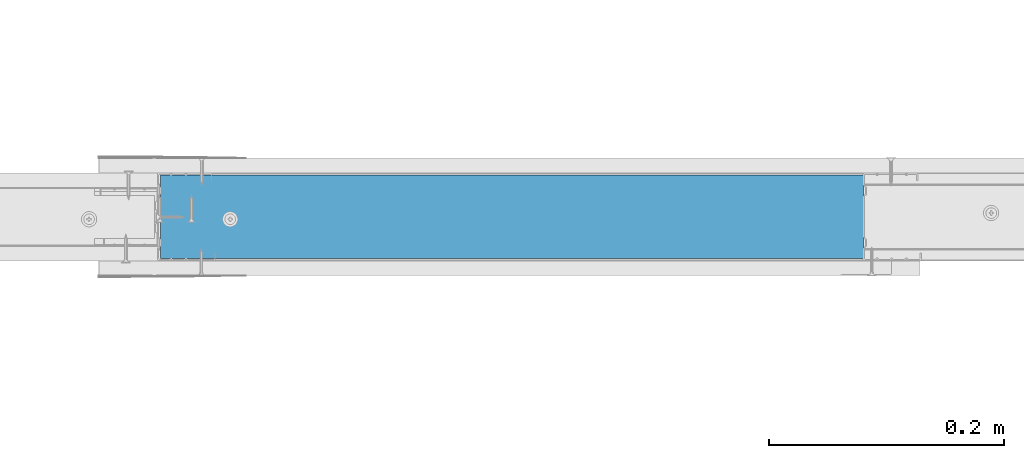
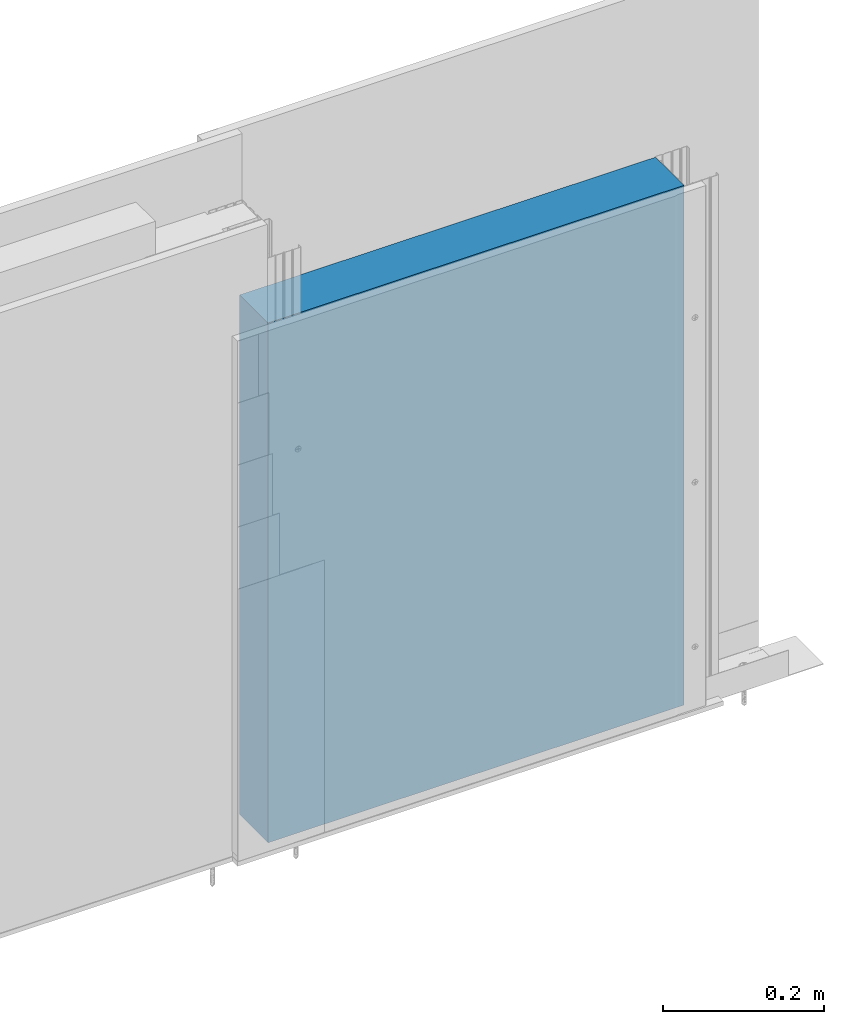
# One storey, part 6 of 42: 1 wall.
"""IFC2X3 building model written with IfcOpenShell, lengths in millimetres."""

from ifc_helpers import new_model, entity, si_unit, converted_unit, direction, frame, origin, origin_with_axes, place, context, project, spatial, faceted_brep, element, save


model = new_model("IFC2X3")

# Units and contexts
model_context = context("Model", 3, precision=1e-05, world=origin(), true_north=direction((0.0, 1.0, 0.0)))
ifc_project = project(units=[si_unit("LENGTHUNIT", "METRE", prefix="MILLI"), si_unit("AREAUNIT", "SQUARE_METRE"), si_unit("VOLUMEUNIT", "CUBIC_METRE"), converted_unit("PLANEANGLEUNIT", "DEGREE", entity("IfcPlaneAngleMeasure", 0.01745), si_unit("PLANEANGLEUNIT", "RADIAN"), dimensions=[0, 0, 0, 0, 0, 0, 0]), si_unit("SOLIDANGLEUNIT", "STERADIAN"), si_unit("MASSUNIT", "GRAM"), si_unit("TIMEUNIT", "SECOND"), si_unit("THERMODYNAMICTEMPERATUREUNIT", "DEGREE_CELSIUS"), si_unit("LUMINOUSINTENSITYUNIT", "LUMEN")], contexts=[model_context])

# Site, building, storey
site_placement = place(None, origin_with_axes())
site = spatial("IfcSite", under=ifc_project, at=site_placement, Name="Default Site", CompositionType="ELEMENT")
building_placement = place(site_placement, origin_with_axes())
building = spatial("IfcBuilding", under=site, at=building_placement, Name="Default Building", CompositionType="ELEMENT")
storey_placement = place(building_placement, origin_with_axes())
storey = spatial("IfcBuildingStorey", under=building, at=storey_placement, Name="Default Building Storey", CompositionType="ELEMENT", Elevation=0.0)

# Wall
wall_placement = place(storey_placement, frame((2882.904835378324, 5380.926380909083, 8.382447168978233), z_axis=(0.0, 0.0, 1.0), x_axis=(-1.0, 4.718447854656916e-16, 0.0)))
element("IfcWall", 1, at=wall_placement, inside=storey, Name="Wełna mineralna szklana lub skalna ISOVER", context=model_context, shape_type="Brep", body=[
    faceted_brep([(-712.274316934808, 3398.989379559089, 791.8049439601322), (-114.6243169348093, 3398.989379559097, 791.8049439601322), (-114.6243169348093, 3398.989379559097, 2.350000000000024), (-712.274316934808, 3398.989379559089, 2.350000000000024), (-712.2743169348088, 3328.283223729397, 791.8049439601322), (-712.2743169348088, 3328.283223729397, 2.350000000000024), (-114.62431693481, 3328.2832237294, 2.350000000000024), (-114.62431693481, 3328.2832237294, 791.8049439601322)], [[[0, 1, 2, 3]], [[4, 0, 3, 5]], [[2, 6, 5, 3]], [[4, 7, 1, 0]], [[5, 6, 7, 4]], [[1, 7, 6, 2]]]),
])

save(model, "model.ifc")
